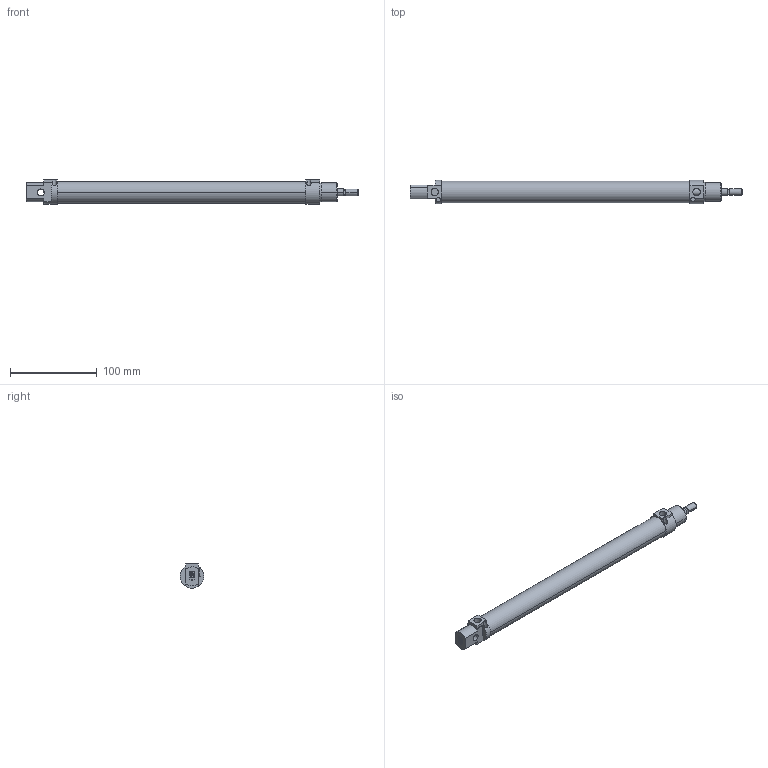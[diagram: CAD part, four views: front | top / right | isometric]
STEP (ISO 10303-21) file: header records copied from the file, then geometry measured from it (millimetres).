
FILE_DESCRIPTION(('CATIA V5 STEP Exchange'),'2;1');
FILE_NAME('D:\stp file for catalog\PSN\20\PSN-20-08-250.stp','2018-04-28T10:13:37+00:00',('none'),('none'),'CATIA Version 5-6 Release 2016','CATIA V5 STEP AP203','none');
FILE_SCHEMA(('CONFIG_CONTROL_DESIGN'));
Length unit declared in the file: millimetre
Products named in the file (1): PSN-20-08-250-00
Assembly tree (2 placements, depth 2):
  PSN-20-08-250-00
    #57
    #5057
Bounding box: 382.25 x 26.99 x 28 mm (x, y, z)
Volume: 100374.6 mm3; surface area: 62016.8 mm2
Topology: 2 solids, 3 shells, 206 faces, 515 edges, 338 vertices
Faces by surface type: plane 140, cylinder 60, cone 6
Entity records: 5780 total; most frequent: CARTESIAN_POINT 1106, ORIENTED_EDGE 1030, DIRECTION 763, EDGE_CURVE 515, VECTOR 361, LINE 361, VERTEX_POINT 338, AXIS2_PLACEMENT_3D 273
